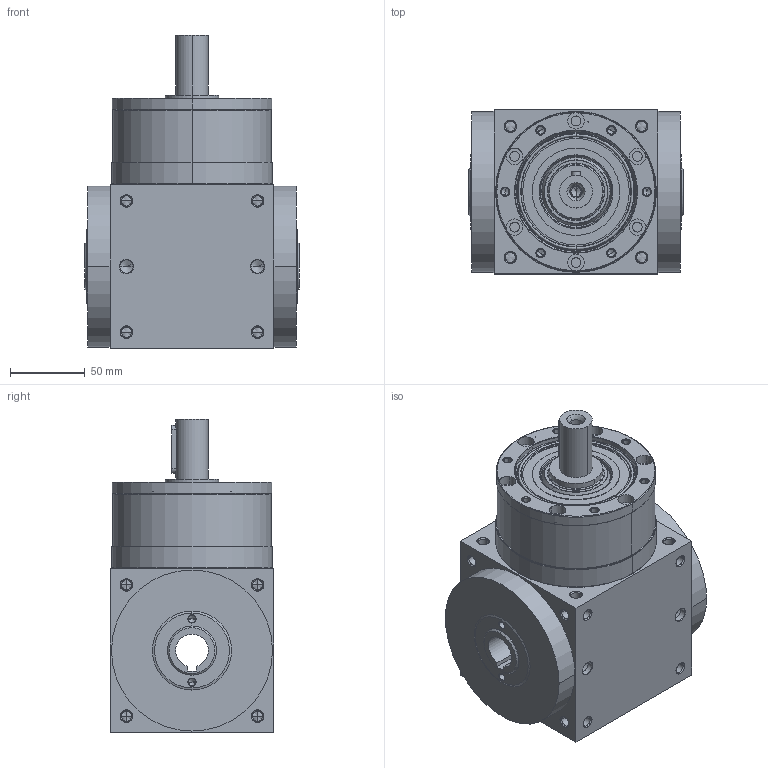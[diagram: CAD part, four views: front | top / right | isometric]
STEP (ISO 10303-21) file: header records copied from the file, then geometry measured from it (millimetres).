
FILE_DESCRIPTION((''),'2;1');
FILE_NAME('AT110H-1_ASM','2015-01-13T',('d01834'),(''),'PRO/ENGINEER BY PARAMETRIC TECHNOLOGY CORPORATION, 2008410','PRO/ENGINEER BY PARAMETRIC TECHNOLOGY CORPORATION, 2008410','');
FILE_SCHEMA(('CONFIG_CONTROL_DESIGN'));
Length unit declared in the file: millimetre
Products named in the file (6): AT110H-1; P1801500001; 22400071005; P1208500001; P0904501001; AT110H-1_ASM
Assembly tree (5 placements, depth 2):
  AT110H-1_ASM
    AT110H-1
    P1801500001
    22400071005
    P1208500001
    P0904501001
Bounding box: 144 x 110 x 210 mm (x, y, z)
Volume: 1891549.1 mm3; surface area: 201779.4 mm2
Topology: 6 solids, 38 shells, 621 faces, 1539 edges, 906 vertices
Faces by surface type: cylinder 275, cone 228, plane 80, torus 38
Entity records: 18894 total; most frequent: CARTESIAN_POINT 4109, DIRECTION 3333, ORIENTED_EDGE 2800, EDGE_CURVE 1463, AXIS2_PLACEMENT_3D 1398, VERTEX_POINT 906, CIRCLE 758, EDGE_LOOP 730
